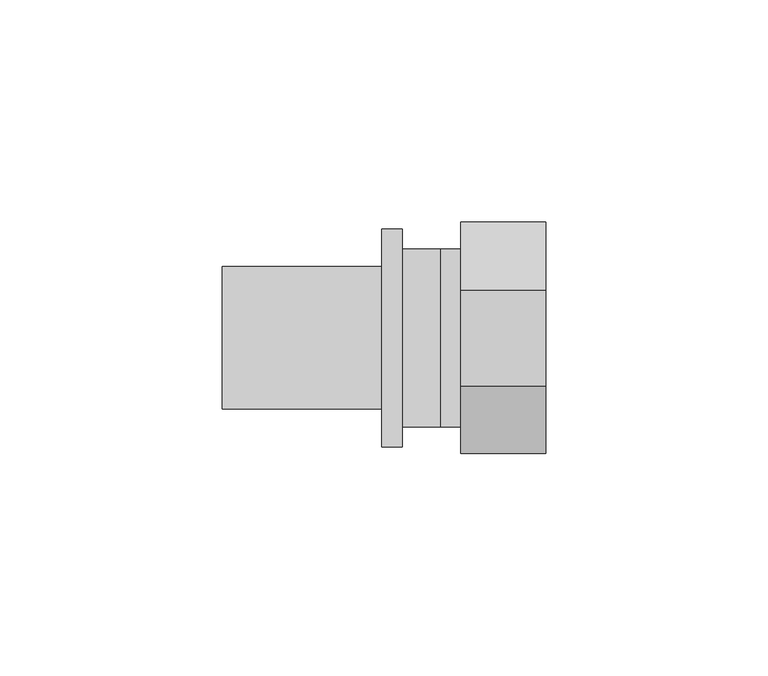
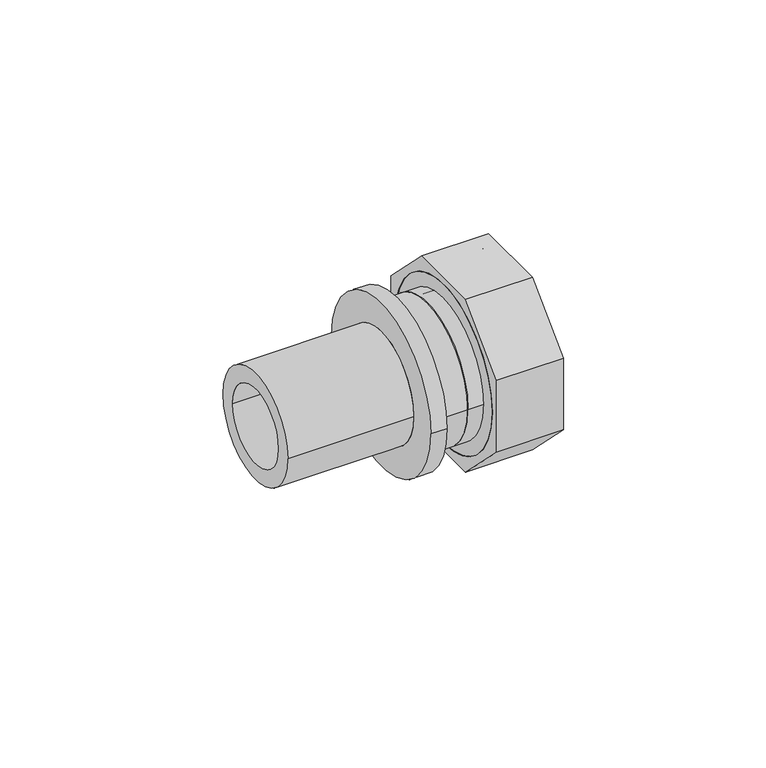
"""IFC4 building model written with IfcOpenShell, lengths in millimetres: pipe fitting geometry, REHAU_RAUTITAN_Adaptor_RX+_union nut : REHAU_RAUTITAN_Adaptor_RX+_union nut."""

from ifc_helpers import new_model, si_unit, point, frame, origin, origin_2d, place, context, project, spatial, polyline, circle_curve, trimmed, segment, composite_curve, outline, extrude, source, transform, mapped, element, save
from ifc_brep_helpers import plane_surface, cylinder_surface, revolved_surface, advanced_brep


def pipe_fitting_c34647a8(model_context):
    return source(origin(), model_context, "Body", "SolidModel", [
        extrude(outline(polyline([(-10.7695526, -26.0), (-26.0, -10.7695526), (-26.0, 10.7695526), (-10.7695526, 26.0), (10.7695526, 26.0), (26.0, 10.7695526), (26.0, -10.7695526), (10.7695526, -26.0), (-10.7695526, -26.0)]), holes=[composite_curve([segment(trimmed(circle_curve(origin_2d(), 23.9), [point((-23.9, 0.0))], [point((23.9, 0.0))], True, "CARTESIAN"), True, "CONTINUOUS"), segment(trimmed(circle_curve(origin_2d(), 23.9), [point((23.9, 0.0))], [point((-23.9, 0.0))], True, "CARTESIAN"), True, "CONTINUOUS")], self_intersect=False)]), frame((4.6, 0.0, 0.0), z_axis=(1.0, 0.0, 0.0), x_axis=(0.0, 1.0, 0.0)), (0.0, 0.0, 1.0), 19.0),
        advanced_brep(
        [(23.6, 23.9, 0.0), (23.6, -23.9, 0.0), (4.6, -23.9, 0.0), (4.6, 23.9, 0.0), (7.6, 21.0, 0.0), (7.6, -21.0, 0.0), (23.6, -21.0, 0.0), (23.6, 21.0, 0.0), (4.6, 18.0, 0.0), (4.6, -18.0, 0.0), (7.6, -18.0, 0.0), (7.6, 18.0, 0.0)],
        [
            (0, 1, circle_curve(frame((23.6, 0.0, 0.0), z_axis=(-1.0, 0.0, 0.0), x_axis=(0.0, -1.0, 0.0)), 23.9)),
            (1, 2),
            (2, 3, circle_curve(frame((4.6, 0.0, 0.0), z_axis=(1.0, 0.0, 0.0), x_axis=(0.0, -1.0, 0.0)), 23.9)),
            (3, 0),
            (4, 5, circle_curve(frame((7.6, 0.0, 0.0), z_axis=(-1.0, 0.0, 0.0), x_axis=(0.0, -1.0, 0.0)), 21.0)),
            (5, 6),
            (6, 7, circle_curve(frame((23.6, 0.0, 0.0), z_axis=(1.0, 0.0, 0.0), x_axis=(0.0, -1.0, 0.0)), 21.0)),
            (7, 4),
            (8, 9, circle_curve(frame((4.6, 0.0, 0.0), z_axis=(-1.0, 0.0, 0.0), x_axis=(0.0, -1.0, 0.0)), 18.0)),
            (9, 10),
            (10, 11, circle_curve(frame((7.6, 0.0, 0.0), z_axis=(1.0, 0.0, 0.0), x_axis=(0.0, -1.0, 0.0)), 18.0)),
            (11, 8),
            (1, 0, circle_curve(frame((23.6, 0.0, 0.0), z_axis=(-1.0, 0.0, 0.0), x_axis=(0.0, 1.0, 0.0)), 23.9)),
            (3, 2, circle_curve(frame((4.6, 0.0, 0.0), z_axis=(1.0, 0.0, 0.0), x_axis=(0.0, 1.0, 0.0)), 23.9)),
            (6, 7, circle_curve(frame((23.6, 0.0, 0.0), z_axis=(-1.0, 0.0, 0.0), x_axis=(0.0, 1.0, 0.0)), 21.0)),
            (5, 4, circle_curve(frame((7.6, 0.0, 0.0), z_axis=(-1.0, 0.0, 0.0), x_axis=(0.0, 1.0, 0.0)), 21.0)),
            (10, 11, circle_curve(frame((7.6, 0.0, 0.0), z_axis=(-1.0, 0.0, 0.0), x_axis=(0.0, 1.0, 0.0)), 18.0)),
            (9, 8, circle_curve(frame((4.6, 0.0, 0.0), z_axis=(-1.0, 0.0, 0.0), x_axis=(0.0, 1.0, 0.0)), 18.0)),
        ],
        [
            cylinder_surface(frame((0.0, 0.0, 0.0), z_axis=(1.0, 0.0, 0.0), x_axis=(0.0, -1.0, 0.0)), 23.9),
            revolved_surface(polyline([(23.6, -21.0, 0.0), (7.6, -21.0, 0.0)]), (0.0, 0.0, 0.0), (1.0, 0.0, 0.0)),
            revolved_surface(polyline([(7.6, -18.0, 0.0), (4.6, -18.0, 0.0)]), (0.0, 0.0, 0.0), (1.0, 0.0, 0.0)),
            cylinder_surface(frame((0.0, 0.0, 0.0), z_axis=(1.0, 0.0, 0.0), x_axis=(0.0, 1.0, 0.0)), 23.9),
            plane_surface(frame((23.6, 0.0, 0.0), z_axis=(1.0, 0.0, 0.0), x_axis=(0.0, 1.0, 0.0))),
            revolved_surface(polyline([(23.6, 21.0, 0.0), (7.6, 21.0, 0.0)]), (0.0, 0.0, 0.0), (1.0, 0.0, 0.0)),
            plane_surface(frame((7.6, 0.0, 0.0), z_axis=(1.0, 0.0, 0.0), x_axis=(0.0, 1.0, 0.0))),
            revolved_surface(polyline([(7.6, 18.0, 0.0), (4.6, 18.0, 0.0)]), (0.0, 0.0, 0.0), (1.0, 0.0, 0.0)),
            plane_surface(frame((4.6, 0.0, 0.0), z_axis=(-1.0, 0.0, 0.0), x_axis=(0.0, 1.0, 0.0))),
        ],
        [
            (0, [[1, 2, 3, 4]]),
            (1, [[5, 6, 7, 8]]),
            (2, [[9, 10, 11, 12]]),
            (3, [[13, -4, 14, -2]]),
            (4, [[-13, -1], [15, -7]]),
            (5, [[16, -8, -15, -6]]),
            (6, [[-16, -5], [17, -11]]),
            (7, [[18, -12, -17, -10]]),
            (8, [[-14, -3], [-18, -9]]),
        ],
    ),
        advanced_brep(
        [(7.6, 20.0, 0.0), (7.6, -20.0, 0.0), (0.0, -20.0, 0.0), (0.0, 20.0, 0.0), (11.0, 21.0, 0.0), (11.0, -21.0, 0.0), (7.6, -21.0, 0.0), (7.6, 21.0, 0.0), (1.4730817, 10.75, 0.0), (1.4730817, -10.75, 0.0), (11.0, -10.75, 0.0), (11.0, 10.75, 0.0), (0.0, 8.5764556, 0.0), (0.0, -8.5764556, 0.0), (1.4730817, -8.5764556, 0.0), (1.4730817, 8.5764556, 0.0)],
        [
            (0, 1, circle_curve(frame((7.6, 0.0, 0.0), z_axis=(-1.0, 0.0, 0.0), x_axis=(0.0, -1.0, 0.0)), 20.0)),
            (1, 2),
            (2, 3, circle_curve(frame((0.0, 0.0, 0.0), z_axis=(1.0, 0.0, 0.0), x_axis=(0.0, -1.0, 0.0)), 20.0)),
            (3, 0),
            (4, 5, circle_curve(frame((11.0, 0.0, 0.0), z_axis=(-1.0, 0.0, 0.0), x_axis=(0.0, -1.0, 0.0)), 21.0)),
            (5, 6),
            (6, 7, circle_curve(frame((7.6, 0.0, 0.0), z_axis=(1.0, 0.0, 0.0), x_axis=(0.0, -1.0, 0.0)), 21.0)),
            (7, 4),
            (8, 9, circle_curve(frame((1.4730817, 0.0, 0.0), z_axis=(-1.0, 0.0, 0.0), x_axis=(0.0, -1.0, 0.0)), 10.75)),
            (9, 10),
            (10, 11, circle_curve(frame((11.0, 0.0, 0.0), z_axis=(1.0, 0.0, 0.0), x_axis=(0.0, -1.0, 0.0)), 10.75)),
            (11, 8),
            (2, 3, circle_curve(frame((0.0, 0.0, 0.0), z_axis=(-1.0, 0.0, 0.0), x_axis=(0.0, 1.0, 0.0)), 20.0)),
            (12, 13, circle_curve(frame((0.0, 0.0, 0.0), z_axis=(1.0, 0.0, 0.0), x_axis=(0.0, 1.0, 0.0)), 8.5764556)),
            (13, 12, circle_curve(frame((0.0, 0.0, 0.0), z_axis=(1.0, 0.0, 0.0), x_axis=(0.0, -1.0, 0.0)), 8.5764556)),
            (1, 0, circle_curve(frame((7.6, 0.0, 0.0), z_axis=(-1.0, 0.0, 0.0), x_axis=(0.0, 1.0, 0.0)), 20.0)),
            (6, 7, circle_curve(frame((7.6, 0.0, 0.0), z_axis=(-1.0, 0.0, 0.0), x_axis=(0.0, 1.0, 0.0)), 21.0)),
            (5, 4, circle_curve(frame((11.0, 0.0, 0.0), z_axis=(-1.0, 0.0, 0.0), x_axis=(0.0, 1.0, 0.0)), 21.0)),
            (10, 11, circle_curve(frame((11.0, 0.0, 0.0), z_axis=(-1.0, 0.0, 0.0), x_axis=(0.0, 1.0, 0.0)), 10.75)),
            (9, 8, circle_curve(frame((1.4730817, 0.0, 0.0), z_axis=(-1.0, 0.0, 0.0), x_axis=(0.0, 1.0, 0.0)), 10.75)),
            (13, 14),
            (14, 15, circle_curve(frame((1.4730817, 0.0, 0.0), z_axis=(1.0, 0.0, 0.0), x_axis=(0.0, -1.0, 0.0)), 8.5764556)),
            (15, 12),
            (14, 15, circle_curve(frame((1.4730817, 0.0, 0.0), z_axis=(-1.0, 0.0, 0.0), x_axis=(0.0, 1.0, 0.0)), 8.5764556)),
        ],
        [
            cylinder_surface(frame((0.0, 0.0, 0.0), z_axis=(1.0, 0.0, 0.0), x_axis=(0.0, -1.0, 0.0)), 20.0),
            cylinder_surface(frame((0.0, 0.0, 0.0), z_axis=(1.0, 0.0, 0.0), x_axis=(0.0, -1.0, 0.0)), 21.0),
            revolved_surface(polyline([(11.0, -10.75, 0.0), (1.4730817, -10.75, 0.0)]), (0.0, 0.0, 0.0), (1.0, 0.0, 0.0)),
            plane_surface(frame((0.0, 0.0, 0.0), z_axis=(-1.0, 0.0, 0.0), x_axis=(0.0, 1.0, 0.0))),
            cylinder_surface(frame((0.0, 0.0, 0.0), z_axis=(1.0, 0.0, 0.0), x_axis=(0.0, 1.0, 0.0)), 20.0),
            plane_surface(frame((7.6, 0.0, 0.0), z_axis=(-1.0, 0.0, 0.0), x_axis=(0.0, 1.0, 0.0))),
            cylinder_surface(frame((0.0, 0.0, 0.0), z_axis=(1.0, 0.0, 0.0), x_axis=(0.0, 1.0, 0.0)), 21.0),
            plane_surface(frame((11.0, 0.0, 0.0), z_axis=(1.0, 0.0, 0.0), x_axis=(0.0, 1.0, 0.0))),
            revolved_surface(polyline([(11.0, 10.75, 0.0), (1.4730817, 10.75, 0.0)]), (0.0, 0.0, 0.0), (1.0, 0.0, 0.0)),
            revolved_surface(polyline([(1.4730817, -8.5764556, 0.0), (0.0, -8.5764556, 0.0)]), (0.0, 0.0, 0.0), (1.0, 0.0, 0.0)),
            plane_surface(frame((1.4730817, 0.0, 0.0), z_axis=(1.0, 0.0, 0.0), x_axis=(0.0, 1.0, 0.0))),
            revolved_surface(polyline([(1.4730817, 8.5764556, 0.0), (0.0, 8.5764556, 0.0)]), (0.0, 0.0, 0.0), (1.0, 0.0, 0.0)),
        ],
        [
            (0, [[1, 2, 3, 4]]),
            (1, [[5, 6, 7, 8]]),
            (2, [[9, 10, 11, 12]]),
            (3, [[13, -3], [14, 15]]),
            (4, [[16, -4, -13, -2]]),
            (5, [[17, -7], [-16, -1]]),
            (6, [[18, -8, -17, -6]]),
            (7, [[-18, -5], [19, -11]]),
            (8, [[20, -12, -19, -10]]),
            (9, [[-15, 21, 22, 23]]),
            (10, [[-20, -9], [24, -22]]),
            (11, [[-14, -23, -24, -21]]),
        ],
    ),
        advanced_brep(
        [(0.0, 20.0, 0.0), (0.0, -20.0, 0.0), (-8.6, -20.0, 0.0), (-8.6, 20.0, 0.0), (-49.0, 11.25, 0.0), (-49.0, -11.25, 0.0), (0.0, -11.25, 0.0), (0.0, 11.25, 0.0), (-13.2, 16.0, 0.0), (-13.2, -16.0, 0.0), (-49.0, -16.0, 0.0), (-49.0, 16.0, 0.0), (-8.6, 24.5, 0.0), (-8.6, -24.5, 0.0), (-13.2, -24.5, 0.0), (-13.2, 24.5, 0.0)],
        [
            (0, 1, circle_curve(frame((0.0, 0.0, 0.0), z_axis=(-1.0, 0.0, 0.0), x_axis=(0.0, -1.0, 0.0)), 20.0)),
            (1, 2),
            (2, 3, circle_curve(frame((-8.6, 0.0, 0.0), z_axis=(1.0, 0.0, 0.0), x_axis=(0.0, -1.0, 0.0)), 20.0)),
            (3, 0),
            (4, 5, circle_curve(frame((-49.0, 0.0, 0.0), z_axis=(-1.0, 0.0, 0.0), x_axis=(0.0, -1.0, 0.0)), 11.25)),
            (5, 6),
            (6, 7, circle_curve(frame((0.0, 0.0, 0.0), z_axis=(1.0, 0.0, 0.0), x_axis=(0.0, -1.0, 0.0)), 11.25)),
            (7, 4),
            (8, 9, circle_curve(frame((-13.2, 0.0, 0.0), z_axis=(-1.0, 0.0, 0.0), x_axis=(0.0, -1.0, 0.0)), 16.0)),
            (9, 10),
            (10, 11, circle_curve(frame((-49.0, 0.0, 0.0), z_axis=(1.0, 0.0, 0.0), x_axis=(0.0, -1.0, 0.0)), 16.0)),
            (11, 8),
            (12, 13, circle_curve(frame((-8.6, 0.0, 0.0), z_axis=(-1.0, 0.0, 0.0), x_axis=(0.0, -1.0, 0.0)), 24.5)),
            (13, 14),
            (14, 15, circle_curve(frame((-13.2, 0.0, 0.0), z_axis=(1.0, 0.0, 0.0), x_axis=(0.0, -1.0, 0.0)), 24.5)),
            (15, 12),
            (1, 0, circle_curve(frame((0.0, 0.0, 0.0), z_axis=(-1.0, 0.0, 0.0), x_axis=(0.0, 1.0, 0.0)), 20.0)),
            (3, 2, circle_curve(frame((-8.6, 0.0, 0.0), z_axis=(1.0, 0.0, 0.0), x_axis=(0.0, 1.0, 0.0)), 20.0)),
            (6, 7, circle_curve(frame((0.0, 0.0, 0.0), z_axis=(-1.0, 0.0, 0.0), x_axis=(0.0, 1.0, 0.0)), 11.25)),
            (5, 4, circle_curve(frame((-49.0, 0.0, 0.0), z_axis=(-1.0, 0.0, 0.0), x_axis=(0.0, 1.0, 0.0)), 11.25)),
            (10, 11, circle_curve(frame((-49.0, 0.0, 0.0), z_axis=(-1.0, 0.0, 0.0), x_axis=(0.0, 1.0, 0.0)), 16.0)),
            (9, 8, circle_curve(frame((-13.2, 0.0, 0.0), z_axis=(-1.0, 0.0, 0.0), x_axis=(0.0, 1.0, 0.0)), 16.0)),
            (14, 15, circle_curve(frame((-13.2, 0.0, 0.0), z_axis=(-1.0, 0.0, 0.0), x_axis=(0.0, 1.0, 0.0)), 24.5)),
            (13, 12, circle_curve(frame((-8.6, 0.0, 0.0), z_axis=(-1.0, 0.0, 0.0), x_axis=(0.0, 1.0, 0.0)), 24.5)),
        ],
        [
            cylinder_surface(frame((0.0, 0.0, 0.0), z_axis=(1.0, 0.0, 0.0), x_axis=(0.0, -1.0, 0.0)), 20.0),
            revolved_surface(polyline([(0.0, -11.25, 0.0), (-49.0, -11.25, 0.0)]), (0.0, 0.0, 0.0), (1.0, 0.0, 0.0)),
            cylinder_surface(frame((0.0, 0.0, 0.0), z_axis=(1.0, 0.0, 0.0), x_axis=(0.0, -1.0, 0.0)), 16.0),
            cylinder_surface(frame((0.0, 0.0, 0.0), z_axis=(1.0, 0.0, 0.0), x_axis=(0.0, -1.0, 0.0)), 24.5),
            cylinder_surface(frame((0.0, 0.0, 0.0), z_axis=(1.0, 0.0, 0.0), x_axis=(0.0, 1.0, 0.0)), 20.0),
            plane_surface(frame((0.0, 0.0, 0.0), z_axis=(1.0, 0.0, 0.0), x_axis=(0.0, 1.0, 0.0))),
            revolved_surface(polyline([(0.0, 11.25, 0.0), (-49.0, 11.25, 0.0)]), (0.0, 0.0, 0.0), (1.0, 0.0, 0.0)),
            plane_surface(frame((-49.0, 0.0, 0.0), z_axis=(-1.0, 0.0, 0.0), x_axis=(0.0, 1.0, 0.0))),
            cylinder_surface(frame((0.0, 0.0, 0.0), z_axis=(1.0, 0.0, 0.0), x_axis=(0.0, 1.0, 0.0)), 16.0),
            plane_surface(frame((-13.2, 0.0, 0.0), z_axis=(-1.0, 0.0, 0.0), x_axis=(0.0, 1.0, 0.0))),
            cylinder_surface(frame((0.0, 0.0, 0.0), z_axis=(1.0, 0.0, 0.0), x_axis=(0.0, 1.0, 0.0)), 24.5),
            plane_surface(frame((-8.6, 0.0, 0.0), z_axis=(1.0, 0.0, 0.0), x_axis=(0.0, 1.0, 0.0))),
        ],
        [
            (0, [[1, 2, 3, 4]]),
            (1, [[5, 6, 7, 8]]),
            (2, [[9, 10, 11, 12]]),
            (3, [[13, 14, 15, 16]]),
            (4, [[17, -4, 18, -2]]),
            (5, [[-17, -1], [19, -7]]),
            (6, [[20, -8, -19, -6]]),
            (7, [[21, -11], [-20, -5]]),
            (8, [[22, -12, -21, -10]]),
            (9, [[23, -15], [-22, -9]]),
            (10, [[24, -16, -23, -14]]),
            (11, [[-24, -13], [-18, -3]]),
        ],
    ),
    ])


if __name__ == "__main__":
    model = new_model("IFC4")
    model_context = context("Model", 3, world=origin())
    ifc_project = project(units=[si_unit("LENGTHUNIT", "METRE", prefix="MILLI")], contexts=[model_context])
    site = spatial("IfcSite", under=ifc_project)
    building = spatial("IfcBuilding", under=site)
    placement = place(None, origin())
    pipe_fitting_shape = pipe_fitting_c34647a8(model_context)
    element("IfcPipeFitting", 1, ObjectType="REHAU_RAUTITAN_Adaptor_RX+_union nut : REHAU_RAUTITAN_Adaptor_RX+_union nut", at=placement, inside=building, context=model_context, shape_type="MappedRepresentation", body=[
        mapped(pipe_fitting_shape, transform((0.0, 0.0, 0.0), x_axis=(1.0, 0.0, 0.0), y_axis=(0.0, 1.0, 0.0), z_axis=(0.0, 0.0, 1.0))),
    ])
    save(model, "model.ifc")
